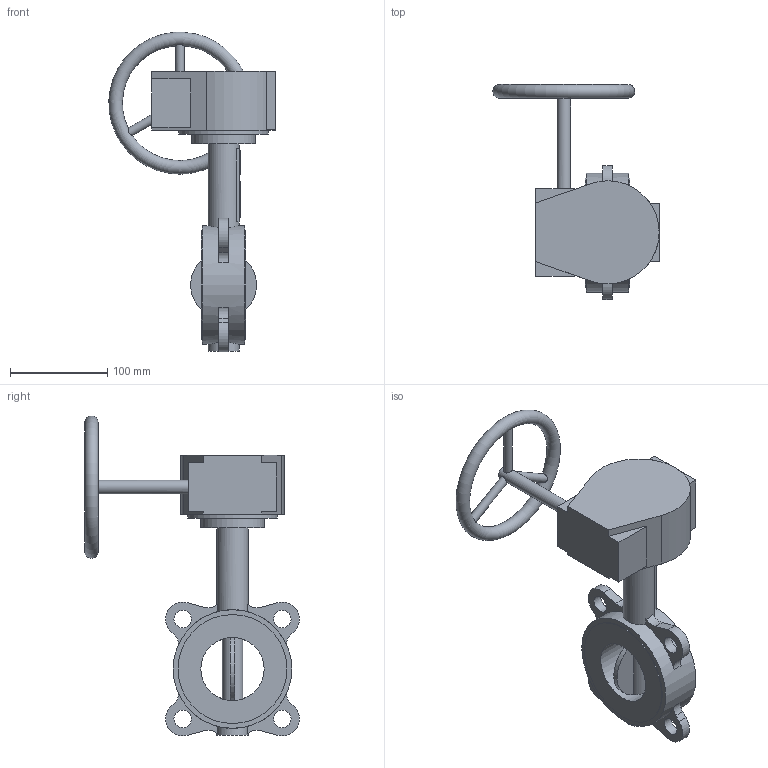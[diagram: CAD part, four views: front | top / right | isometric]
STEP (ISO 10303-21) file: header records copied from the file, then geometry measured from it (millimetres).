
FILE_DESCRIPTION(('STEP AP203'), '1');
FILE_NAME('青蜮铕 015WDN65 疱潴牝铕', '', ('UNSPECIFIED'), ('UNSPECIFIED'), 'ASCON STEP Converter 1.6', 'ASCON Math Kernel', '');
FILE_SCHEMA(('CONFIG_CONTROL_DESIGN'));
Length unit declared in the file: millimetre
Bounding box: 170.94 x 220.7 x 328.68 mm (x, y, z)
Volume: 807275.3 mm3; surface area: 162036.3 mm2
Topology: 1 solids, 2 shells, 661 faces, 1931 edges, 1242 vertices
Faces by surface type: cylinder 461, plane 199, torus 1
Full cylindrical faces by diameter (mm): 6.7 x4, 8 x4, 9 x3, 12.6 x1, 14 x1, 18 x4, 32 x2, 35 x1, 65 x2, 92 x1, 112 x2, 122 x1
Entity records: 29518 total; most frequent: CARTESIAN_POINT 5913, DIRECTION 4147, ORIENTED_EDGE 3743, EDGE_CURVE 1903, AXIS2_PLACEMENT_3D 1624, VERTEX_POINT 1241, CIRCLE 962, LINE 899
